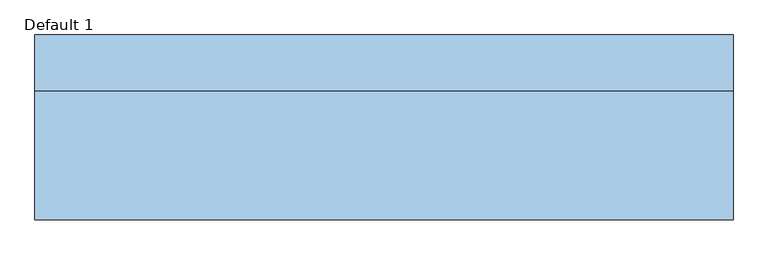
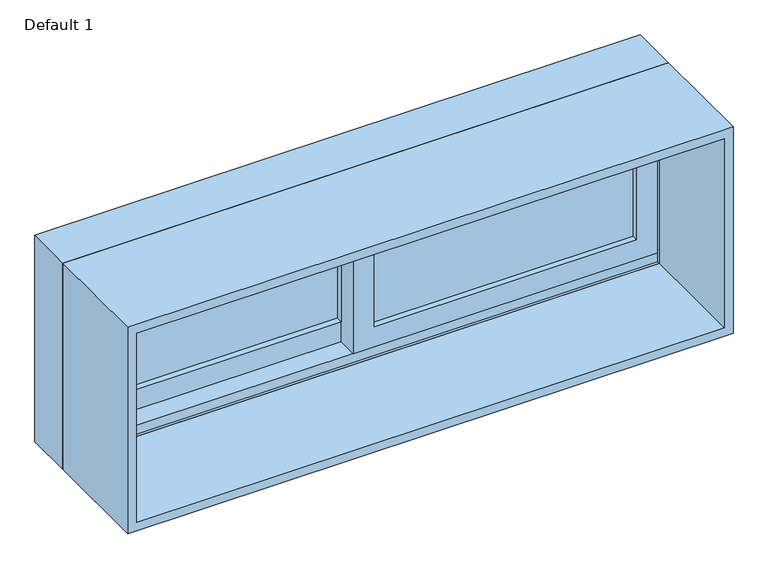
"""IFC4 building model written with IfcOpenShell, lengths in millimetres: window geometry, Planitar-Sliding-Double : Default 1."""

from ifc_helpers import new_model, si_unit, frame, origin, place, context, project, spatial, polyline, outline, extrude, faceted_brep, source, transform, mapped, element, save


def default_1_78cc1f86(model_context):
    return source(origin(), model_context, "Body", "SolidModel", [
        extrude(outline(polyline([(933.45, -615.95), (933.45, 22.225), (1352.55, 22.225), (1352.55, -615.95), (933.45, -615.95)]), holes=[polyline([(1308.1, -22.225), (996.95, -22.225), (996.95, -571.5), (1308.1, -571.5), (1308.1, -22.225)])]), frame((0.0, 123.19, 0.0), z_axis=(0.0, 1.0, 0.0), x_axis=(0.0, 0.0, 1.0)), (0.0, 0.0, 1.0), 44.45),
        extrude(outline(polyline([(952.5, 615.95), (1352.55, 615.95), (1352.55, -22.225), (952.5, -22.225), (952.5, 615.95)]), holes=[polyline([(996.95, 22.225), (1308.1, 22.225), (1308.1, 571.5), (996.95, 571.5), (996.95, 22.225)])]), frame((0.0, 78.74, 0.0), z_axis=(0.0, 1.0, 0.0), x_axis=(0.0, 0.0, 1.0)), (0.0, 0.0, 1.0), 44.45),
        faceted_brep([(-635.0, 72.39, 914.4), (-635.0, 173.99, 914.4), (635.0, 173.99, 914.4), (635.0, 72.39, 914.4), (-594.0778905, 173.99, 1330.6778905), (-594.0778905, 167.64, 1330.6778905), (-594.0778905, 167.64, 933.45), (-594.0778905, 173.99, 933.45), (594.0778905, 167.64, 1330.6778905), (594.0778905, 167.64, 933.45), (615.95, 167.64, 933.45), (615.95, 167.64, 1352.55), (-615.95, 167.64, 1352.55), (-615.95, 167.64, 933.45), (-615.95, 72.39, 1352.55), (-615.95, 72.39, 933.45), (-615.95, 78.74, 933.45), (-615.95, 78.74, 952.5), (-615.95, 123.19, 952.5), (-615.95, 123.19, 933.45), (635.0, 72.39, 1371.6), (-635.0, 72.39, 1371.6), (615.95, 72.39, 1352.55), (615.95, 72.39, 933.45), (-635.0, 173.99, 1371.6), (635.0, 173.99, 1371.6), (594.0778905, 173.99, 933.45), (594.0778905, 173.99, 1330.6778905), (615.95, 123.19, 933.45), (615.95, 123.19, 952.5), (615.95, 78.74, 952.5), (615.95, 78.74, 933.45)], [[[0, 1, 2, 3]], [[4, 5, 6, 7]], [[5, 8, 9, 10, 11, 12, 13, 6]], [[12, 14, 15, 16, 17, 18, 19, 13]], [[0, 3, 20, 21], [22, 23, 15, 14]], [[24, 1, 0, 21]], [[2, 1, 24, 25], [4, 7, 26, 27]], [[5, 4, 27, 8]], [[12, 11, 22, 14]], [[21, 20, 25, 24]], [[8, 27, 26, 9]], [[22, 11, 10, 28, 29, 30, 31, 23]], [[20, 3, 2, 25]], [[26, 7, 6, 13, 19, 28, 10, 9]], [[28, 19, 18, 29]], [[29, 18, 17, 30]], [[30, 17, 16, 31]], [[15, 23, 31, 16]]]),
        extrude(outline(polyline([(1371.6, -635.0), (914.4, -635.0), (914.4, 635.0), (1371.6, 635.0), (1371.6, -635.0)]), holes=[polyline([(1352.55, 615.95), (933.45, 615.95), (933.45, -615.95), (1352.55, -615.95), (1352.55, 615.95)])]), frame((0.0, -162.56, 0.0), z_axis=(0.0, 1.0, 0.0), x_axis=(0.0, 0.0, 1.0)), (0.0, 0.0, 1.0), 234.95),
        extrude(outline(polyline([(571.5, 110.49), (571.5, 104.14), (22.225, 104.14), (22.225, 110.49), (571.5, 110.49)])), frame((0.0, 0.0, 996.95), z_axis=(0.0, 0.0, 1.0), x_axis=(1.0, 0.0, 0.0)), (0.0, 0.0, 1.0), 311.15),
        extrude(outline(polyline([(571.5, 97.79), (571.5, 91.44), (22.225, 91.44), (22.225, 97.79), (571.5, 97.79)])), frame((0.0, 0.0, 996.95), z_axis=(0.0, 0.0, 1.0), x_axis=(1.0, 0.0, 0.0)), (0.0, 0.0, 1.0), 311.15),
        extrude(outline(polyline([(-22.225, 154.94), (-22.225, 148.59), (-571.5, 148.59), (-571.5, 154.94), (-22.225, 154.94)])), frame((0.0, 0.0, 996.95), z_axis=(0.0, 0.0, 1.0), x_axis=(1.0, 0.0, 0.0)), (0.0, 0.0, 1.0), 311.15),
        extrude(outline(polyline([(-22.225, 142.24), (-22.225, 135.89), (-571.5, 135.89), (-571.5, 142.24), (-22.225, 142.24)])), frame((0.0, 0.0, 996.95), z_axis=(0.0, 0.0, 1.0), x_axis=(1.0, 0.0, 0.0)), (0.0, 0.0, 1.0), 311.15),
    ])


if __name__ == "__main__":
    model = new_model("IFC4")
    model_context = context("Model", 3, world=origin())
    ifc_project = project(units=[si_unit("LENGTHUNIT", "METRE", prefix="MILLI")], contexts=[model_context])
    site = spatial("IfcSite", under=ifc_project)
    building = spatial("IfcBuilding", under=site)
    placement = place(None, origin())
    default_1_shape = default_1_78cc1f86(model_context)
    element("IfcWindow", 1, ObjectType="Planitar-Sliding-Double : Default 1", at=placement, inside=building, context=model_context, shape_type="MappedRepresentation", body=[
        mapped(default_1_shape, transform((0.0, 0.0, 0.0), x_axis=(1.0, 0.0, 0.0), y_axis=(0.0, 1.0, 0.0), z_axis=(0.0, 0.0, 1.0))),
    ])
    save(model, "model.ifc")
